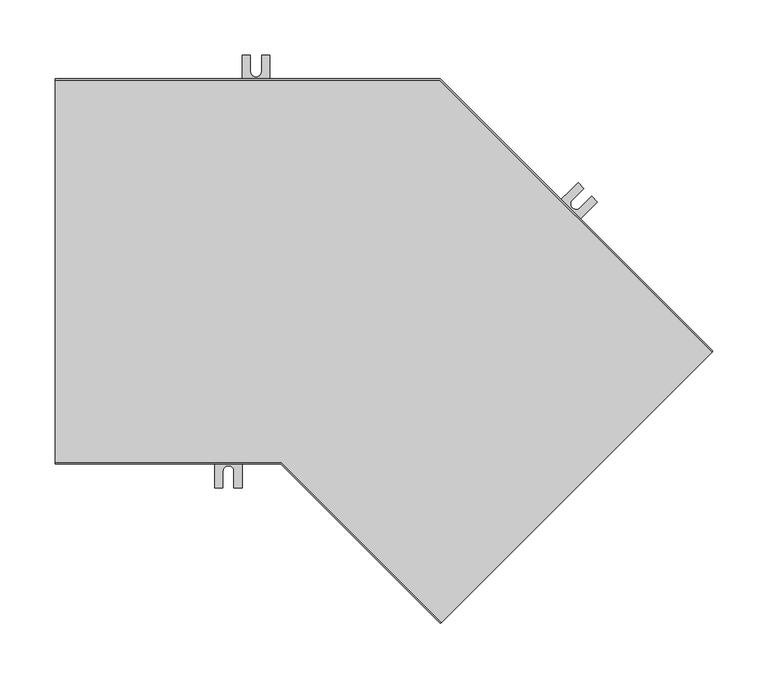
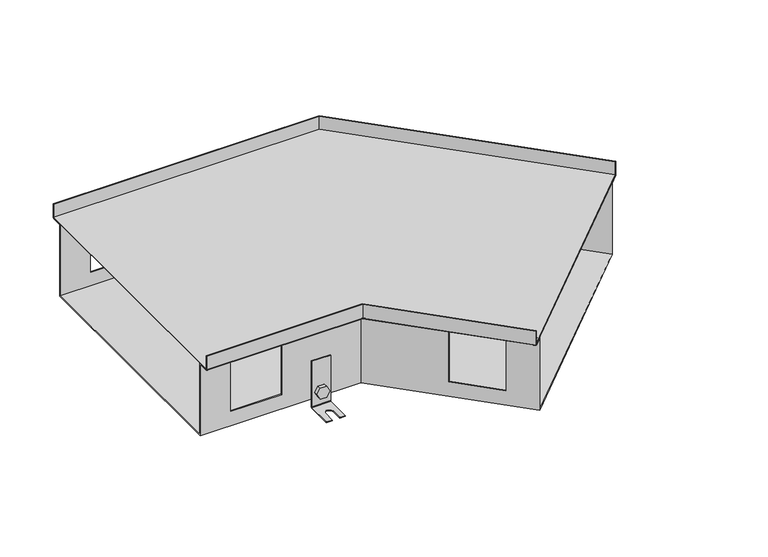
"""IFC4 building model written with IfcOpenShell, lengths in millimetres: proxy geometry, TECHNO_Угловой элемент_KVU : 350_120_135°."""

import ifcopenshell
import ifcopenshell.guid

model = None  # the IFC model being written
_history = None  # IfcOwnerHistory: only IFC2X3 demands one
_inside = {}  # id of a spatial element -> (the spatial element, [elements in it])
_under = {}  # id of a project, library or spatial element -> (it, [spatial elements below it])
_declared = {}  # id of a project -> (the project, [libraries it declares])
_typed = {}  # id of a type object -> (the type object, [elements of that type])
_made_of = {}  # id of a material, layer set ... -> (it, [elements and type objects made of it])


def new_model(schema):
    """Start an empty IFC model of exactly this schema.

    Asked for "IFC4X3", IfcOpenShell would pick the latest addendum, in which some entities
    have other attributes; the version numbers below select the first issue.
    IFC2X3 requires an IfcOwnerHistory on every rooted entity: one is made here for all.
    """
    global model, _history
    if schema == "IFC4X3":
        model = ifcopenshell.file(schema_version=(4, 3, 0, 0))
    else:
        model = ifcopenshell.file(schema=schema)
    _inside.clear()
    _under.clear()
    _declared.clear()
    _typed.clear()
    _made_of.clear()
    _history = None
    if model.schema == "IFC2X3":
        org = make("IfcOrganization", Name="unknown")
        user = make(
            "IfcPersonAndOrganization",
            ThePerson=make("IfcPerson", FamilyName="unknown"),
            TheOrganization=org,
        )
        app = make(
            "IfcApplication",
            ApplicationDeveloper=org,
            Version="unknown",
            ApplicationFullName="unknown",
            ApplicationIdentifier="unknown",
        )
        _history = make(
            "IfcOwnerHistory",
            OwningUser=user,
            OwningApplication=app,
            ChangeAction="ADDED",
            CreationDate=0,
        )
    return model


def make(cls, **values):
    """One entity of the class cls with the attributes given. An attribute that is None is left unset."""
    return model.create_entity(
        cls, **{name: value for name, value in values.items() if value is not None}
    )


def rooted(cls, **values):
    """An entity with a GlobalId (a new one), such as an element, a storey or a relation."""
    return make(cls, GlobalId=ifcopenshell.guid.new(), OwnerHistory=_history, **values)


def si_unit(unit_type, name, prefix=None):
    """IfcSIUnit, for example si_unit("LENGTHUNIT", "METRE", prefix="MILLI")."""
    return make("IfcSIUnit", UnitType=unit_type, Prefix=prefix, Name=name)


def assignment(units):
    """IfcUnitAssignment: the units of a project."""
    return None if units is None else make("IfcUnitAssignment", Units=units)


def point(xyz):
    """IfcCartesianPoint."""
    return None if xyz is None else make("IfcCartesianPoint", Coordinates=xyz)


def direction(xyz):
    """IfcDirection."""
    return None if xyz is None else make("IfcDirection", DirectionRatios=xyz)


def frame(location, z_axis=None, x_axis=None):
    """IfcAxis2Placement3D, a coordinate frame: its origin and axes. An axis left out is left unset."""
    return make(
        "IfcAxis2Placement3D",
        Location=point(location),
        Axis=direction(z_axis),
        RefDirection=direction(x_axis),
    )


def frame_2d(location, x_axis=None):
    """IfcAxis2Placement2D, a coordinate frame in the plane: its origin and x axis."""
    return make(
        "IfcAxis2Placement2D", Location=point(location), RefDirection=direction(x_axis)
    )


def origin():
    """The frame at (0, 0, 0) with its axes left unset."""
    return frame((0.0, 0.0, 0.0))


def place(relative_to, where):
    """IfcLocalPlacement: puts the frame where relative to a parent placement (None: the world)."""
    return make(
        "IfcLocalPlacement", PlacementRelTo=relative_to, RelativePlacement=where
    )


def context(
    kind, dimensions, precision=None, world=None, true_north=None, identifier=None
):
    """IfcGeometricRepresentationContext, for example the 3D "Model" context."""
    return make(
        "IfcGeometricRepresentationContext",
        ContextIdentifier=identifier,
        ContextType=kind,
        CoordinateSpaceDimension=dimensions,
        Precision=precision,
        WorldCoordinateSystem=world,
        TrueNorth=true_north,
    )


def project(units=None, contexts=None):
    """IfcProject with its units and contexts."""
    return rooted(
        "IfcProject",
        Name="project",
        RepresentationContexts=contexts,
        UnitsInContext=assignment(units),
    )


def spatial(cls, under=None, at=None, **own):
    """A site, building, storey or space (cls), placed at a placement, below another one or the project."""
    s = rooted(cls, ObjectPlacement=at, **own)
    if under is not None:
        _under.setdefault(under.id(), (under, []))[1].append(s)
    return s


def polyline(points):
    """IfcPolyline through the points."""
    return make("IfcPolyline", Points=[point(p) for p in points])


def circle_curve(where, radius):
    """IfcCircle in the frame where."""
    return make("IfcCircle", Position=where, Radius=radius)


def ellipse_curve(where, semi_axis1, semi_axis2):
    """IfcEllipse in the frame where."""
    return make(
        "IfcEllipse", Position=where, SemiAxis1=semi_axis1, SemiAxis2=semi_axis2
    )


def trimmed(basis, trim1, trim2, sense, master):
    """IfcTrimmedCurve: the piece of a basis curve between two trims."""
    return make(
        "IfcTrimmedCurve",
        BasisCurve=basis,
        Trim1=trim1,
        Trim2=trim2,
        SenseAgreement=sense,
        MasterRepresentation=master,
    )


def segment(curve, same_sense, transition):
    """IfcCompositeCurveSegment."""
    return make(
        "IfcCompositeCurveSegment",
        Transition=transition,
        SameSense=same_sense,
        ParentCurve=curve,
    )


def composite_curve(segments, self_intersect=None):
    """IfcCompositeCurve: segments joined end to end."""
    return make("IfcCompositeCurve", Segments=segments, SelfIntersect=self_intersect)


def outline(outer, holes=None, kind="AREA"):
    """IfcArbitraryClosedProfileDef: a profile drawn as a closed curve; with holes, ...WithVoids."""
    if holes is None:
        return make("IfcArbitraryClosedProfileDef", ProfileType=kind, OuterCurve=outer)
    return make(
        "IfcArbitraryProfileDefWithVoids",
        ProfileType=kind,
        OuterCurve=outer,
        InnerCurves=holes,
    )


def extrude(swept, where, along, depth):
    """IfcExtrudedAreaSolid: the profile swept, set in the frame where, extruded along a direction by depth."""
    return make(
        "IfcExtrudedAreaSolid",
        SweptArea=swept,
        Position=where,
        ExtrudedDirection=direction(along),
        Depth=depth,
    )


def shape(context_of_items, identifier, shape_type, items):
    """IfcShapeRepresentation: the items that make up one representation, for example the "Body"."""
    return make(
        "IfcShapeRepresentation",
        ContextOfItems=context_of_items,
        RepresentationIdentifier=identifier,
        RepresentationType=shape_type,
        Items=items,
    )


def source(mapping_origin, context_of_items, identifier, shape_type, items):
    """IfcRepresentationMap: a shape defined once, which mapped items show again and again."""
    return make(
        "IfcRepresentationMap",
        MappingOrigin=mapping_origin,
        MappedRepresentation=shape(context_of_items, identifier, shape_type, items),
    )


def transform(
    local_origin,
    x_axis=None,
    y_axis=None,
    z_axis=None,
    scale=None,
    scale2=None,
    scale3=None,
    uniform=True,
):
    """IfcCartesianTransformationOperator3D, or its non-uniform kind. x_axis, y_axis, z_axis: its Axis1, 2, 3."""
    if uniform:
        return make(
            "IfcCartesianTransformationOperator3D",
            Axis1=direction(x_axis),
            Axis2=direction(y_axis),
            LocalOrigin=point(local_origin),
            Scale=scale,
            Axis3=direction(z_axis),
        )
    return make(
        "IfcCartesianTransformationOperator3DnonUniform",
        Axis1=direction(x_axis),
        Axis2=direction(y_axis),
        LocalOrigin=point(local_origin),
        Scale=scale,
        Axis3=direction(z_axis),
        Scale2=scale2,
        Scale3=scale3,
    )


def mapped(mapping_source, mapping_target):
    """IfcMappedItem: shows the shape of a source again, moved by a transform."""
    return make(
        "IfcMappedItem", MappingSource=mapping_source, MappingTarget=mapping_target
    )


def made_of(thing, what):
    """Note that an element or type object is made of a material, layer set ...; save() writes the relation."""
    if what is not None:
        _made_of.setdefault(what.id(), (what, []))[1].append(thing)
    return thing


def element(
    cls,
    number,
    at=None,
    inside=None,
    cuts=None,
    type_object=None,
    material=None,
    context=None,
    identifier="Body",
    shape_type=None,
    held_by="IfcProductDefinitionShape",
    body=None,
    shapes=None,
    **own,
):
    """One element of the class cls, such as IfcWall. Its Tag is "e" and its number.

    at: its placement. inside: the storey or other place that contains it. cuts: it is an
    opening in that element (IfcRelVoidsElement). A single representation is given by context,
    identifier, shape_type and body (its items); several are given by shapes. held_by: the class
    of the entity that holds the representations. save() writes the other relations.
    """
    e = rooted(cls, Tag="e%d" % number, ObjectPlacement=at, **own)
    if body is not None:
        shapes = [shape(context, identifier, shape_type, body)]
    if shapes is not None:
        e.Representation = make(held_by, Representations=shapes)
    if inside is not None:
        _inside.setdefault(inside.id(), (inside, []))[1].append(e)
    if cuts is not None:
        rooted(
            "IfcRelVoidsElement", RelatingBuildingElement=cuts, RelatedOpeningElement=e
        )
    if type_object is not None:
        _typed.setdefault(type_object.id(), (type_object, []))[1].append(e)
    return made_of(e, material)


def aggregate(whole, parts):
    """IfcRelAggregates: a whole, such as a stair, and the parts it consists of."""
    return rooted("IfcRelAggregates", RelatingObject=whole, RelatedObjects=parts)


def save(model, path):
    """Write the relations noted so far, then the file.

    IfcRelAggregates (storeys below a building ...), IfcRelContainedInSpatialStructure (elements
    in a storey), IfcRelDefinesByType, IfcRelAssociatesMaterial and IfcRelDeclares: one each for
    every whole, place, type object, material and project.
    """
    for whole, parts in _under.values():
        aggregate(whole, parts)
    for where, things in _inside.values():
        rooted(
            "IfcRelContainedInSpatialStructure",
            RelatedElements=things,
            RelatingStructure=where,
        )
    for kind, things in _typed.values():
        rooted("IfcRelDefinesByType", RelatedObjects=things, RelatingType=kind)
    for what, things in _made_of.values():
        rooted("IfcRelAssociatesMaterial", RelatedObjects=things, RelatingMaterial=what)
    for by, libraries in _declared.values():
        rooted("IfcRelDeclares", RelatingContext=by, RelatedDefinitions=libraries)
    model.write(path)


def plane_surface(at):
    """IfcPlane: the flat surface through the origin of the frame at, square to its z axis."""
    return make("IfcPlane", Position=at)


def cylinder_surface(at, radius):
    """IfcCylindricalSurface: all points at the distance radius from the z axis of the frame at."""
    return make("IfcCylindricalSurface", Position=at, Radius=radius)


def revolved_surface(curve, axis_point, axis_direction):
    """IfcSurfaceOfRevolution: the curve turned about the line through axis_point along axis_direction."""
    return make(
        "IfcSurfaceOfRevolution",
        SweptCurve=make("IfcArbitraryOpenProfileDef", ProfileType="CURVE", Curve=curve),
        AxisPosition=make("IfcAxis1Placement", Location=point(axis_point), Axis=direction(axis_direction)),
    )


def advanced_brep(points, edges, surfaces, faces):
    """IfcAdvancedBrep: a solid bounded by faces that lie on surfaces and meet in shared edges.

    An edge is (start, end): straight between two places in points (the first is 0);
    or (start, end, curve); or (start, end, curve, False) where it runs against its curve.
    A face is (place in surfaces, loops), or (place, loops, False) where it looks against
    its surface's normal. A loop lists edges by number (the first is 1), with a minus sign
    where the edge is run from its end to its start. The first loop is the outer one.
    """
    corners = [point(p) for p in points]
    vertices = [make("IfcVertexPoint", VertexGeometry=c) for c in corners]
    made = []
    for start, end, *more in edges:
        made.append(
            make(
                "IfcEdgeCurve",
                EdgeStart=vertices[start],
                EdgeEnd=vertices[end],
                EdgeGeometry=more[0] if more else make("IfcPolyline", Points=[corners[start], corners[end]]),
                SameSense=more[1] if len(more) > 1 else True,
            )
        )
    hull = []
    for where, loops, *sense in faces:
        bounds = []
        for j, loop in enumerate(loops):
            ring = [make("IfcOrientedEdge", EdgeElement=made[abs(k) - 1], Orientation=k > 0) for k in loop]
            bounds.append(
                make(
                    "IfcFaceOuterBound" if j == 0 else "IfcFaceBound",
                    Bound=make("IfcEdgeLoop", EdgeList=ring),
                    Orientation=True,
                )
            )
        hull.append(make("IfcAdvancedFace", Bounds=bounds, FaceSurface=surfaces[where], SameSense=sense[0] if sense else True))
    return make("IfcAdvancedBrep", Outer=make("IfcClosedShell", CfsFaces=hull))


def mechanical_equipment_264bb3c7(model_context):
    return source(origin(), model_context, "Body", "SolidModel", [
        extrude(outline(composite_curve([segment(trimmed(circle_curve(frame_2d((0.0, -7.5000001)), 7.5), [point((0.0, -15.0))], [point((0.0, 0.0))], False, "CARTESIAN"), True, "CONTINUOUS"), segment(trimmed(circle_curve(frame_2d((0.0, -7.5000001)), 7.5), [point((0.0, 0.0))], [point((0.0, -15.0))], False, "CARTESIAN"), True, "CONTINUOUS")], self_intersect=False)), frame((422.4077344, -35.4349781, -110.5), z_axis=(0.7071067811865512, 0.7071067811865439, 0.0), x_axis=(0.0, 0.0, 1.0)), (0.0, 0.0, 1.0), 1.5),
        extrude(outline(polyline([(0.0, 0.0), (8.660254, 0.0), (12.990381, -7.5), (8.660254, -15.0), (0.0, -15.0), (-4.330127, -7.5), (0.0, 0.0)])), frame((406.5259365, -28.4627256, -110.5), z_axis=(0.7071067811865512, 0.7071067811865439, 0.0), x_axis=(0.3535533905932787, -0.3535533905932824, -0.8660254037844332)), (0.0, 0.0, 1.0), 5.1),
        advanced_brep(
        [(425.0947402, -39.8190401, -65.5), (425.0947402, -39.8190401, -128.5), (424.5290547, -40.3847255, -129.3), (401.194531, -63.7192493, -129.3), (401.194531, -63.7192493, -130.5), (424.5290547, -40.3847255, -130.5), (425.9432683, -38.970512, -128.5), (425.9432683, -38.970512, -65.5), (407.4170706, -22.1413706, -65.5), (408.2655988, -21.2928425, -65.5), (408.2655988, -21.2928425, -128.5), (406.8513852, -22.707056, -130.5), (383.5168614, -46.0415798, -130.5), (383.5168614, -46.0415798, -129.3), (406.8513852, -22.707056, -129.3), (407.4170706, -22.1413706, -128.5), (388.8201623, -51.3448807, -129.3), (399.426764, -40.7382789, -129.3), (406.4978318, -47.8093468, -129.3), (395.8912301, -58.4159485, -129.3), (395.8912301, -58.4159485, -130.5), (388.8201623, -51.3448807, -130.5), (406.4978318, -47.8093468, -130.5), (399.426764, -40.7382789, -130.5)],
        [
            (0, 1),
            (1, 2, circle_curve(frame((424.5290547, -40.3847255, -128.5), z_axis=(-0.7071067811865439, 0.7071067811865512, 0.0), x_axis=(-0.7071067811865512, -0.7071067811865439, 0.0)), 0.8)),
            (2, 3),
            (3, 4),
            (4, 5),
            (5, 6, circle_curve(frame((424.5290547, -40.3847255, -128.5), z_axis=(0.7071067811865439, -0.7071067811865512, 0.0), x_axis=(-0.7071067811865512, -0.7071067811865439, 0.0)), 2.0)),
            (6, 7),
            (7, 0),
            (8, 9),
            (9, 10),
            (10, 11, circle_curve(frame((406.8513852, -22.707056, -128.5), z_axis=(-0.7071067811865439, 0.7071067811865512, 0.0), x_axis=(-0.7071067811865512, -0.7071067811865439, 0.0)), 2.0)),
            (11, 12),
            (12, 13),
            (13, 14),
            (14, 15, circle_curve(frame((406.8513852, -22.707056, -128.5), z_axis=(0.7071067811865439, -0.7071067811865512, 0.0), x_axis=(-0.7071067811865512, -0.7071067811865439, 0.0)), 0.8)),
            (15, 8),
            (0, 8),
            (15, 1),
            (14, 2),
            (13, 16),
            (16, 17),
            (17, 18, circle_curve(frame((402.9622979, -44.2738128, -129.3), z_axis=(0.0, 0.0, -1.0), x_axis=(0.7071067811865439, -0.7071067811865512, 0.0)), 5.0)),
            (18, 19),
            (19, 3),
            (19, 20),
            (20, 4),
            (12, 21),
            (21, 16),
            (20, 22),
            (22, 23, circle_curve(frame((402.9622979, -44.2738128, -130.5), z_axis=(0.0, 0.0, 1.0), x_axis=(0.7071067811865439, -0.7071067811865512, 0.0)), 5.0)),
            (23, 21),
            (11, 5),
            (10, 6),
            (9, 7),
            (23, 17),
            (18, 22),
        ],
        [
            plane_surface(frame((425.0947402, -39.8190401, -65.5), z_axis=(0.7071067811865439, -0.7071067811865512, 0.0), x_axis=(0.0, 0.0, -1.0))),
            plane_surface(frame((407.4170706, -22.1413706, -65.5), z_axis=(-0.7071067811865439, 0.7071067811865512, 0.0), x_axis=(0.0, 0.0, 1.0))),
            plane_surface(frame((425.0947402, -39.8190401, -65.5), z_axis=(-0.7071067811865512, -0.7071067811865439, 0.0), x_axis=(-0.7071067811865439, 0.7071067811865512, 0.0))),
            revolved_surface(polyline([(406.2856997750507, -23.27274142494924, -128.5), (423.9633693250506, -40.950410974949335, -128.5)]), (406.8513852, -22.707056, -128.5), (-0.7071067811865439, 0.7071067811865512, 0.0)),
            plane_surface(frame((424.5290547, -40.3847255, -129.3), z_axis=(0.0, 0.0, 1.0), x_axis=(-0.7071067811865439, 0.7071067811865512, 0.0))),
            plane_surface(frame((401.194531, -63.7192493, -129.3), z_axis=(-0.7071067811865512, -0.7071067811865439, 0.0), x_axis=(-0.7071067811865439, 0.7071067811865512, 0.0))),
            plane_surface(frame((401.194531, -63.7192493, -130.5), z_axis=(0.0, 0.0, -1.0), x_axis=(-0.7071067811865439, 0.7071067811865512, 0.0))),
            cylinder_surface(frame((406.8513852, -22.707056, -128.5), z_axis=(0.7071067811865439, -0.7071067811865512, 0.0), x_axis=(-0.7071067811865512, -0.7071067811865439, 0.0)), 2.0),
            plane_surface(frame((425.9432683, -38.970512, -128.5), z_axis=(0.7071067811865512, 0.7071067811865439, 0.0), x_axis=(-0.7071067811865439, 0.7071067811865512, 0.0))),
            plane_surface(frame((425.9432683, -38.970512, -65.5), z_axis=(0.0, 0.0, 1.0), x_axis=(-0.7071067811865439, 0.7071067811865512, 0.0))),
            plane_surface(frame((399.426764, -40.7382789, -129.3), z_axis=(0.7071067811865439, -0.7071067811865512, 0.0), x_axis=(0.0, 0.0, -1.0))),
            plane_surface(frame((395.8912301, -58.4159485, -129.3), z_axis=(-0.707106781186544, 0.7071067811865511, 0.0), x_axis=(0.0, 0.0, -1.0))),
            revolved_surface(polyline([(406.4978318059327, -47.80934670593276, -129.3), (406.4978318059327, -47.80934670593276, -130.5)]), (402.9622979, -44.2738128, -130.5), (0.0, 0.0, 1.0)),
        ],
        [
            (0, [[1, 2, 3, 4, 5, 6, 7, 8]]),
            (1, [[9, 10, 11, 12, 13, 14, 15, 16]]),
            (2, [[-1, 17, -16, 18]]),
            (3, [[-2, -18, -15, 19]]),
            (4, [[-3, -19, -14, 20, 21, 22, 23, 24]]),
            (5, [[-4, -24, 25, 26]]),
            (5, [[-13, 27, 28, -20]]),
            (6, [[-5, -26, 29, 30, 31, -27, -12, 32]]),
            (7, [[-6, -32, -11, 33]]),
            (8, [[-7, -33, -10, 34]]),
            (9, [[-8, -34, -9, -17]]),
            (10, [[35, -21, -28, -31]]),
            (11, [[36, -29, -25, -23]]),
            (12, [[-35, -30, -36, -22]]),
        ],
    ),
        extrude(outline(composite_curve([segment(trimmed(circle_curve(frame_2d((0.0, -7.5)), 7.5), [point((0.0, -15.0))], [point((0.0, 0.0))], False, "CARTESIAN"), True, "CONTINUOUS"), segment(trimmed(circle_curve(frame_2d((0.0, -7.5)), 7.5), [point((0.0, 0.0))], [point((0.0, -15.0))], False, "CARTESIAN"), True, "CONTINUOUS")], self_intersect=False)), frame((452.6719046, 51.3977346, -110.5), z_axis=(0.7071067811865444, 0.7071067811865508, 0.0), x_axis=(0.0, 0.0, -1.0)), (0.0, 0.0, 1.0), 1.5),
        extrude(outline(polyline([(0.0, 0.0), (4.330127, -7.5), (0.0, -15.0000001), (-8.6602541, -15.0000001), (-12.9903811, -7.5000001), (-8.6602541, 0.0), (0.0, 0.0)])), frame((466.0081182, 41.8798977, -110.5), z_axis=(0.7071067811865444, 0.7071067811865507, 0.0), x_axis=(0.35355339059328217, -0.35355339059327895, 0.8660254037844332)), (0.0, 0.0, 1.0), 5.1),
        advanced_brep(
        [(451.045559, 56.8424569, -65.5), (451.045559, 56.8424569, -128.5), (451.6112445, 57.4081423, -129.3), (474.9457682, 80.7426661, -129.3), (474.9457682, 80.7426661, -130.5), (451.6112445, 57.4081423, -130.5), (450.1970309, 55.9939287, -128.5), (450.1970309, 55.9939287, -65.5), (468.7232286, 39.1647873, -65.5), (467.8747004, 38.3162592, -65.5), (467.8747004, 38.3162592, -128.5), (469.288914, 39.7304728, -130.5), (492.6234378, 63.0649965, -130.5), (492.6234378, 63.0649965, -129.3), (469.288914, 39.7304728, -129.3), (468.7232286, 39.1647873, -128.5), (487.3201369, 68.3682974, -129.3), (476.7135352, 57.7616957, -129.3), (469.6424674, 64.8327635, -129.3), (480.2490691, 75.4393652, -129.3), (480.2490691, 75.4393652, -130.5), (487.3201369, 68.3682974, -130.5), (469.6424674, 64.8327635, -130.5), (476.7135352, 57.7616957, -130.5)],
        [
            (0, 1),
            (1, 2, circle_curve(frame((451.6112445, 57.4081423, -128.5), z_axis=(0.7071067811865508, -0.7071067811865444, 0.0), x_axis=(0.7071067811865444, 0.7071067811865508, 0.0)), 0.8)),
            (2, 3),
            (3, 4),
            (4, 5),
            (5, 6, circle_curve(frame((451.6112445, 57.4081423, -128.5), z_axis=(-0.7071067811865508, 0.7071067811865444, 0.0), x_axis=(0.7071067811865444, 0.7071067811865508, 0.0)), 2.0)),
            (6, 7),
            (7, 0),
            (8, 9),
            (9, 10),
            (10, 11, circle_curve(frame((469.288914, 39.7304728, -128.5), z_axis=(0.7071067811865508, -0.7071067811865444, 0.0), x_axis=(0.7071067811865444, 0.7071067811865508, 0.0)), 2.0)),
            (11, 12),
            (12, 13),
            (13, 14),
            (14, 15, circle_curve(frame((469.288914, 39.7304728, -128.5), z_axis=(-0.7071067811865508, 0.7071067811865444, 0.0), x_axis=(0.7071067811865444, 0.7071067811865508, 0.0)), 0.8)),
            (15, 8),
            (0, 8),
            (15, 1),
            (14, 2),
            (13, 16),
            (16, 17),
            (17, 18, circle_curve(frame((473.1780013, 61.2972296, -129.3), z_axis=(0.0, 0.0, -1.0), x_axis=(-0.7071067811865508, 0.7071067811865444, 0.0)), 5.0)),
            (18, 19),
            (19, 3),
            (19, 20),
            (20, 4),
            (12, 21),
            (21, 16),
            (20, 22),
            (22, 23, circle_curve(frame((473.1780013, 61.2972296, -130.5), z_axis=(0.0, 0.0, 1.0), x_axis=(-0.7071067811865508, 0.7071067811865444, 0.0)), 5.0)),
            (23, 21),
            (11, 5),
            (10, 6),
            (9, 7),
            (23, 17),
            (18, 22),
        ],
        [
            plane_surface(frame((451.045559, 56.8424569, -65.5), z_axis=(-0.7071067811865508, 0.7071067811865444, 0.0), x_axis=(0.0, 0.0, -1.0))),
            plane_surface(frame((468.7232286, 39.1647873, -65.5), z_axis=(0.7071067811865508, -0.7071067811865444, 0.0), x_axis=(0.0, 0.0, 1.0))),
            plane_surface(frame((451.045559, 56.8424569, -65.5), z_axis=(0.7071067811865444, 0.7071067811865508, 0.0), x_axis=(0.7071067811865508, -0.7071067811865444, 0.0))),
            revolved_surface(polyline([(469.8545994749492, 40.29615817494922, -128.5), (452.1769298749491, 57.97382777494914, -128.5)]), (469.288914, 39.7304728, -128.5), (0.7071067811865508, -0.7071067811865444, 0.0)),
            plane_surface(frame((451.6112445, 57.4081423, -129.3), z_axis=(0.0, 0.0, 1.0000000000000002), x_axis=(0.7071067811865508, -0.7071067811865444, 0.0))),
            plane_surface(frame((474.9457682, 80.7426661, -129.3), z_axis=(0.7071067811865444, 0.7071067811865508, 0.0), x_axis=(0.7071067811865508, -0.7071067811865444, 0.0))),
            plane_surface(frame((474.9457682, 80.7426661, -130.5), z_axis=(0.0, 0.0, -1.0000000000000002), x_axis=(0.7071067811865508, -0.7071067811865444, 0.0))),
            cylinder_surface(frame((469.288914, 39.7304728, -128.5), z_axis=(-0.7071067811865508, 0.7071067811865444, 0.0), x_axis=(0.7071067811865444, 0.7071067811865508, 0.0)), 2.0),
            plane_surface(frame((450.1970309, 55.9939287, -128.5), z_axis=(-0.7071067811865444, -0.7071067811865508, 0.0), x_axis=(0.7071067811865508, -0.7071067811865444, 0.0))),
            plane_surface(frame((450.1970309, 55.9939287, -65.5), z_axis=(0.0, 0.0, 1.0000000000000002), x_axis=(0.7071067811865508, -0.7071067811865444, 0.0))),
            plane_surface(frame((476.7135352, 57.7616957, -129.3), z_axis=(-0.7071067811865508, 0.7071067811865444, 0.0), x_axis=(0.0, 0.0, -1.0))),
            plane_surface(frame((480.2490691, 75.4393652, -129.3), z_axis=(0.7071067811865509, -0.7071067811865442, 0.0), x_axis=(0.0, 0.0, -1.0))),
            revolved_surface(polyline([(469.64246739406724, 64.83276350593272, -129.3), (469.64246739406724, 64.83276350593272, -130.5)]), (473.1780013, 61.2972296, -130.5), (0.0, 0.0, 1.0)),
        ],
        [
            (0, [[1, 2, 3, 4, 5, 6, 7, 8]]),
            (1, [[9, 10, 11, 12, 13, 14, 15, 16]]),
            (2, [[-1, 17, -16, 18]]),
            (3, [[-2, -18, -15, 19]]),
            (4, [[-3, -19, -14, 20, 21, 22, 23, 24]]),
            (5, [[-4, -24, 25, 26]]),
            (5, [[-13, 27, 28, -20]]),
            (6, [[-5, -26, 29, 30, 31, -27, -12, 32]]),
            (7, [[-6, -32, -11, 33]]),
            (8, [[-7, -33, -10, 34]]),
            (9, [[-8, -34, -9, -17]]),
            (10, [[35, -21, -28, -31]]),
            (11, [[36, -29, -25, -23]]),
            (12, [[-35, -30, -36, -22]]),
        ],
    ),
        extrude(outline(composite_curve([segment(trimmed(circle_curve(frame_2d((-110.5, 182.5)), 7.5), [point((-110.5, 175.0))], [point((-110.5, 190.0))], False, "CARTESIAN"), True, "CONTINUOUS"), segment(trimmed(circle_curve(frame_2d((-110.5, 182.5)), 7.5), [point((-110.5, 190.0))], [point((-110.5, 175.0))], False, "CARTESIAN"), True, "CONTINUOUS")], self_intersect=False)), frame((0.0, 160.2, 0.0), z_axis=(0.0, 1.0, 0.0), x_axis=(0.0, 0.0, 1.0)), (0.0, 0.0, 1.0), 1.5),
        extrude(outline(polyline([(-110.5, 173.839746), (-118.0, 178.169873), (-118.0, 186.830127), (-110.5, 191.160254), (-103.0, 186.830127), (-103.0, 178.169873), (-110.5, 173.839746)])), frame((0.0, 162.9, 0.0), z_axis=(0.0, 1.0, 0.0), x_axis=(0.0, 0.0, 1.0)), (0.0, 0.0, 1.0), 5.1),
        advanced_brep(
        [(195.0, 162.9, -65.5), (195.0, 161.7, -65.5), (195.0, 161.7, -128.5), (195.0, 163.7, -130.5), (195.0, 196.7, -130.5), (195.0, 196.7, -129.3), (195.0, 163.7, -129.3), (195.0, 162.9, -128.5), (170.0, 162.9, -65.5), (170.0, 162.9, -128.5), (170.0, 163.7, -129.3), (170.0, 196.7, -129.3), (170.0, 196.7, -130.5), (170.0, 163.7, -130.5), (170.0, 161.7, -128.5), (170.0, 161.7, -65.5), (187.5, 196.7, -129.3), (187.5, 181.7, -129.3), (177.5, 181.7, -129.3), (177.5, 196.7, -129.3), (177.5, 196.7, -130.5), (187.5, 196.7, -130.5), (177.5, 181.7, -130.5), (187.5, 181.7, -130.5)],
        [
            (0, 1),
            (1, 2),
            (2, 3, circle_curve(frame((195.0, 163.7, -128.5), z_axis=(1.0, 0.0, 0.0), x_axis=(0.0, 1.0, 0.0)), 2.0)),
            (3, 4),
            (4, 5),
            (5, 6),
            (6, 7, circle_curve(frame((195.0, 163.7, -128.5), z_axis=(-1.0, 0.0, 0.0), x_axis=(0.0, 1.0, 0.0)), 0.8)),
            (7, 0),
            (8, 9),
            (9, 10, circle_curve(frame((170.0, 163.7, -128.5), z_axis=(1.0, 0.0, 0.0), x_axis=(0.0, 1.0, 0.0)), 0.8)),
            (10, 11),
            (11, 12),
            (12, 13),
            (13, 14, circle_curve(frame((170.0, 163.7, -128.5), z_axis=(-1.0, 0.0, 0.0), x_axis=(0.0, 1.0, 0.0)), 2.0)),
            (14, 15),
            (15, 8),
            (7, 9),
            (8, 0),
            (6, 10),
            (5, 16),
            (16, 17),
            (17, 18, circle_curve(frame((182.5, 181.7, -129.3), z_axis=(0.0, 0.0, -1.0), x_axis=(1.0, 0.0, 0.0)), 5.0)),
            (18, 19),
            (19, 11),
            (19, 20),
            (20, 12),
            (4, 21),
            (21, 16),
            (3, 13),
            (20, 22),
            (22, 23, circle_curve(frame((182.5, 181.7, -130.5), z_axis=(0.0, 0.0, 1.0), x_axis=(1.0, 0.0, 0.0)), 5.0)),
            (23, 21),
            (2, 14),
            (1, 15),
            (18, 22),
            (23, 17),
        ],
        [
            plane_surface(frame((195.0, 162.9, -65.5), z_axis=(1.0, 0.0, 0.0), x_axis=(0.0, 0.0, -1.0))),
            plane_surface(frame((170.0, 162.9, -65.5), z_axis=(-1.0, 0.0, 0.0), x_axis=(0.0, 0.0, 1.0))),
            plane_surface(frame((195.0, 162.9, -65.5), z_axis=(0.0, 1.0, 0.0), x_axis=(-1.0, 0.0, 0.0))),
            revolved_surface(polyline([(170.0, 164.5, -128.5), (195.0, 164.5, -128.5)]), (170.0, 163.7, -128.5), (-1.0, 0.0, 0.0)),
            plane_surface(frame((195.0, 163.7, -129.3), z_axis=(0.0, 0.0, 1.0), x_axis=(-1.0, 0.0, 0.0))),
            plane_surface(frame((195.0, 196.7, -129.3), z_axis=(0.0, 1.0, 0.0), x_axis=(-1.0, 0.0, 0.0))),
            plane_surface(frame((195.0, 196.7, -130.5), z_axis=(0.0, 0.0, -1.0), x_axis=(-1.0, 0.0, 0.0))),
            cylinder_surface(frame((170.0, 163.7, -128.5), z_axis=(1.0, 0.0, 0.0), x_axis=(0.0, 1.0, 0.0)), 2.0),
            plane_surface(frame((195.0, 161.7, -128.5), z_axis=(0.0, -1.0, 0.0), x_axis=(-1.0, 0.0, 0.0))),
            plane_surface(frame((195.0, 161.7, -65.5), z_axis=(0.0, 0.0, 1.0), x_axis=(-1.0, 0.0, 0.0))),
            plane_surface(frame((177.5, 181.7, -129.3), z_axis=(1.0, 0.0, 0.0), x_axis=(0.0, 0.0, -1.0))),
            plane_surface(frame((187.5, 196.7, -129.3), z_axis=(-1.0, 0.0, 0.0), x_axis=(0.0, 0.0, -1.0))),
            revolved_surface(polyline([(187.5, 181.7, -129.3), (187.5, 181.7, -130.5)]), (182.5, 181.7, -130.5), (0.0, 0.0, 1.0)),
        ],
        [
            (0, [[1, 2, 3, 4, 5, 6, 7, 8]]),
            (1, [[9, 10, 11, 12, 13, 14, 15, 16]]),
            (2, [[17, -9, 18, -8]]),
            (3, [[19, -10, -17, -7]]),
            (4, [[20, 21, 22, 23, 24, -11, -19, -6]]),
            (5, [[-24, 25, 26, -12]]),
            (5, [[27, 28, -20, -5]]),
            (6, [[29, -13, -26, 30, 31, 32, -27, -4]]),
            (7, [[33, -14, -29, -3]]),
            (8, [[34, -15, -33, -2]]),
            (9, [[-18, -16, -34, -1]]),
            (10, [[-30, -25, -23, 35]]),
            (11, [[-21, -28, -32, 36]]),
            (12, [[-22, -36, -31, -35]]),
        ],
    ),
        extrude(outline(composite_curve([segment(trimmed(circle_curve(frame_2d((-110.5, 157.5)), 7.5), [point((-110.5, 150.0))], [point((-110.5, 165.0))], False, "CARTESIAN"), True, "CONTINUOUS"), segment(trimmed(circle_curve(frame_2d((-110.5, 157.5)), 7.5), [point((-110.5, 165.0))], [point((-110.5, 150.0))], False, "CARTESIAN"), True, "CONTINUOUS")], self_intersect=False)), frame((0.0, -161.7, 0.0), z_axis=(0.0, 1.0, 0.0), x_axis=(0.0, 0.0, 1.0)), (0.0, 0.0, 1.0), 1.5),
        extrude(outline(polyline([(-110.5, 148.839746), (-118.0, 153.169873), (-118.0, 161.830127), (-110.5, 166.160254), (-103.0, 161.830127), (-103.0, 153.169873), (-110.5, 148.839746)])), frame((0.0, -168.0, 0.0), z_axis=(0.0, 1.0, 0.0), x_axis=(0.0, 0.0, 1.0)), (0.0, 0.0, 1.0), 5.1),
        advanced_brep(
        [(170.0, -162.9, -65.5), (170.0, -162.9, -128.5), (170.0, -163.7, -129.3), (170.0, -196.7, -129.3), (170.0, -196.7, -130.5), (170.0, -163.7, -130.5), (170.0, -161.7, -128.5), (170.0, -161.7, -65.5), (145.0, -162.9, -65.5), (145.0, -161.7, -65.5), (145.0, -161.7, -128.5), (145.0, -163.7, -130.5), (145.0, -196.7, -130.5), (145.0, -196.7, -129.3), (145.0, -163.7, -129.3), (145.0, -162.9, -128.5), (152.5, -196.7, -129.3), (152.5, -181.7, -129.3), (162.5, -181.7, -129.3), (162.5, -196.7, -129.3), (162.5, -196.7, -130.5), (152.5, -196.7, -130.5), (162.5, -181.7, -130.5), (152.5, -181.7, -130.5)],
        [
            (0, 1),
            (1, 2, circle_curve(frame((170.0, -163.7, -128.5), z_axis=(-1.0, 0.0, 0.0), x_axis=(0.0, -1.0, 0.0)), 0.8)),
            (2, 3),
            (3, 4),
            (4, 5),
            (5, 6, circle_curve(frame((170.0, -163.7, -128.5), z_axis=(1.0, 0.0, 0.0), x_axis=(0.0, -1.0, 0.0)), 2.0)),
            (6, 7),
            (7, 0),
            (8, 9),
            (9, 10),
            (10, 11, circle_curve(frame((145.0, -163.7, -128.5), z_axis=(-1.0, 0.0, 0.0), x_axis=(0.0, -1.0, 0.0)), 2.0)),
            (11, 12),
            (12, 13),
            (13, 14),
            (14, 15, circle_curve(frame((145.0, -163.7, -128.5), z_axis=(1.0, 0.0, 0.0), x_axis=(0.0, -1.0, 0.0)), 0.8)),
            (15, 8),
            (0, 8),
            (15, 1),
            (14, 2),
            (13, 16),
            (16, 17),
            (17, 18, circle_curve(frame((157.5, -181.7, -129.3), z_axis=(0.0, 0.0, -1.0), x_axis=(1.0, 0.0, 0.0)), 5.0)),
            (18, 19),
            (19, 3),
            (19, 20),
            (20, 4),
            (12, 21),
            (21, 16),
            (20, 22),
            (22, 23, circle_curve(frame((157.5, -181.7, -130.5), z_axis=(0.0, 0.0, 1.0), x_axis=(1.0, 0.0, 0.0)), 5.0)),
            (23, 21),
            (11, 5),
            (10, 6),
            (9, 7),
            (23, 17),
            (18, 22),
        ],
        [
            plane_surface(frame((170.0, -162.9, -65.5), z_axis=(1.0, 0.0, 0.0), x_axis=(0.0, 0.0, -1.0))),
            plane_surface(frame((145.0, -162.9, -65.5), z_axis=(-1.0, 0.0, 0.0), x_axis=(0.0, 0.0, 1.0))),
            plane_surface(frame((170.0, -162.9, -65.5), z_axis=(0.0, -1.0, 0.0), x_axis=(-1.0, 0.0, 0.0))),
            revolved_surface(polyline([(145.0, -164.5, -128.5), (170.0, -164.5, -128.5)]), (145.0, -163.7, -128.5), (-1.0, 0.0, 0.0)),
            plane_surface(frame((170.0, -163.7, -129.3), z_axis=(0.0, 0.0, 1.0), x_axis=(-1.0, 0.0, 0.0))),
            plane_surface(frame((170.0, -196.7, -129.3), z_axis=(0.0, -1.0, 0.0), x_axis=(-1.0, 0.0, 0.0))),
            plane_surface(frame((170.0, -196.7, -130.5), z_axis=(0.0, 0.0, -1.0), x_axis=(-1.0, 0.0, 0.0))),
            cylinder_surface(frame((145.0, -163.7, -128.5), z_axis=(1.0, 0.0, 0.0), x_axis=(0.0, -1.0, 0.0)), 2.0),
            plane_surface(frame((170.0, -161.7, -128.5), z_axis=(0.0, 1.0, 0.0), x_axis=(-1.0, 0.0, 0.0))),
            plane_surface(frame((170.0, -161.7, -65.5), z_axis=(0.0, 0.0, 1.0), x_axis=(-1.0, 0.0, 0.0))),
            plane_surface(frame((152.5, -181.7, -129.3), z_axis=(1.0, 0.0, 0.0), x_axis=(0.0, 0.0, -1.0))),
            plane_surface(frame((162.5, -196.7, -129.3), z_axis=(-1.0, 0.0, 0.0), x_axis=(0.0, 0.0, -1.0))),
            revolved_surface(polyline([(162.5, -181.7, -129.3), (162.5, -181.7, -130.5)]), (157.5, -181.7, -130.5), (0.0, 0.0, 1.0)),
        ],
        [
            (0, [[1, 2, 3, 4, 5, 6, 7, 8]]),
            (1, [[9, 10, 11, 12, 13, 14, 15, 16]]),
            (2, [[-1, 17, -16, 18]]),
            (3, [[-2, -18, -15, 19]]),
            (4, [[-3, -19, -14, 20, 21, 22, 23, 24]]),
            (5, [[-4, -24, 25, 26]]),
            (5, [[-13, 27, 28, -20]]),
            (6, [[-5, -26, 29, 30, 31, -27, -12, 32]]),
            (7, [[-6, -32, -11, 33]]),
            (8, [[-7, -33, -10, 34]]),
            (9, [[-8, -34, -9, -17]]),
            (10, [[35, -21, -28, -31]]),
            (11, [[36, -29, -25, -23]]),
            (12, [[-35, -30, -36, -22]]),
        ],
    ),
        extrude(outline(polyline([(596.6388453, -73.3359016), (350.8485281, -319.1262187), (205.5223094, -173.8), (0.0, -173.8), (0.0, 173.8), (349.5029437, 173.8), (596.6388453, -73.3359016)])), frame((0.0, 0.0, -19.3), z_axis=(0.0, 0.0, 1.0), x_axis=(1.0, 0.0, 0.0)), (0.0, 0.0, 1.0), 1.2),
        advanced_brep(
        [(350.0, -319.9747468, -19.3), (350.8485281, -319.1262187, -20.5), (360.4651804, -309.5095665, -20.5), (360.4651804, -309.5095665, -120.0), (587.0221931, -82.9525538, -120.0), (587.0221931, -82.9525538, -20.5), (596.6388453, -73.3359016, -20.5), (597.4873734, -72.4873734, -19.3), (597.4873734, -72.4873734, 0.0), (596.6388453, -73.3359016, 0.0), (596.6388453, -73.3359016, -19.3), (587.0221931, -82.9525538, -19.3), (586.1736649, -83.8010819, -20.5), (586.1736649, -83.8010819, -118.8), (361.3137085, -308.6610383, -118.8), (361.3137085, -308.6610383, -20.5), (360.4651804, -309.5095665, -19.3), (350.8485281, -319.1262187, -19.3), (350.8485281, -319.1262187, 0.0), (350.0, -319.9747468, 0.0), (0.0, -175.0, -19.3), (0.0, -175.0, 0.0), (0.0, -173.8, 0.0), (0.0, -173.8, -19.3), (0.0, -160.2, -19.3), (0.0, -159.0, -20.5), (0.0, -159.0, -118.8), (0.0, 159.0, -118.8), (0.0, 159.0, -20.5), (0.0, 160.2, -19.3), (0.0, 173.8, -19.3), (0.0, 173.8, 0.0), (0.0, 175.0, 0.0), (0.0, 175.0, -19.3), (0.0, 173.8, -20.5), (0.0, 160.2, -20.5), (0.0, 160.2, -120.0), (0.0, -160.2, -120.0), (0.0, -160.2, -20.5), (0.0, -173.8, -20.5), (205.5223094, -173.8, -20.5), (205.0252532, -175.0, -19.3), (205.5223094, -173.8, 0.0), (205.5223094, -173.8, -19.3), (211.1556139, -160.2, -120.0), (211.1556139, -160.2, -20.5), (40.0, -160.2, -30.0), (107.0, -160.2, -30.0), (107.0, -160.2, -100.0), (40.0, -160.2, -100.0), (211.6526702, -159.0, -20.5), (211.6526702, -159.0, -118.8), (107.0, -159.0, -30.0), (40.0, -159.0, -30.0), (40.0, -159.0, -100.0), (107.0, -159.0, -100.0), (211.1556139, -160.2, -19.3), (284.8047548, -233.8491409, -30.0), (332.1809091, -281.2252952, -30.0), (332.1809091, -281.2252952, -100.0), (284.8047548, -233.8491409, -100.0), (343.8696393, 160.2, -120.0), (343.372583, 159.0, -118.8), (333.0294373, -280.3767671, -30.0), (285.6532829, -233.0006127, -30.0), (285.6532829, -233.0006127, -100.0), (333.0294373, -280.3767671, -100.0), (205.0252532, -175.0, 0.0), (343.8696393, 160.2, -20.5), (558.7379218, -54.6682825, -30.0), (511.3617675, -7.2921282, -30.0), (511.3617675, -7.2921282, -100.0), (558.7379218, -54.6682825, -100.0), (349.5029437, 173.8, -20.5), (350.0, 175.0, -19.3), (350.0, 175.0, 0.0), (349.5029437, 173.8, 0.0), (349.5029437, 173.8, -19.3), (343.8696393, 160.2, -19.3), (343.372583, 159.0, -20.5), (510.5132393, -8.1406563, -30.0), (557.8893937, -55.5168107, -30.0), (557.8893937, -55.5168107, -100.0), (510.5132393, -8.1406563, -100.0), (107.0, 160.2, -30.0), (40.0, 160.2, -30.0), (40.0, 160.2, -100.0), (107.0, 160.2, -100.0), (40.0, 159.0, -30.0), (107.0, 159.0, -30.0), (107.0, 159.0, -100.0), (40.0, 159.0, -100.0)],
        [
            (0, 1, circle_curve(frame((350.8485281, -319.1262187, -19.3), z_axis=(0.707106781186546, -0.707106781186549, 0.0), x_axis=(-0.707106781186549, -0.707106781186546, 0.0)), 1.2)),
            (1, 2),
            (2, 3),
            (3, 4),
            (4, 5),
            (5, 6),
            (6, 7, circle_curve(frame((596.6388453, -73.3359016, -19.3), z_axis=(0.707106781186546, -0.707106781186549, 0.0), x_axis=(-0.707106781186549, -0.707106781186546, 0.0)), 1.2)),
            (7, 8),
            (8, 9),
            (9, 10),
            (10, 11),
            (11, 12, circle_curve(frame((587.0221931, -82.9525538, -20.5), z_axis=(0.707106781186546, -0.707106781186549, 0.0), x_axis=(-0.707106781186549, -0.707106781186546, 0.0)), 1.2)),
            (12, 13),
            (13, 14),
            (14, 15),
            (15, 16, circle_curve(frame((360.4651804, -309.5095665, -20.5), z_axis=(0.707106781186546, -0.707106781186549, 0.0), x_axis=(-0.707106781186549, -0.707106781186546, 0.0)), 1.2)),
            (16, 17),
            (17, 18),
            (18, 19),
            (19, 0),
            (20, 21),
            (21, 22),
            (22, 23),
            (23, 24),
            (24, 25, circle_curve(frame((0.0, -160.2, -20.5), z_axis=(-1.0, 0.0, 0.0), x_axis=(0.0, -1.0, 0.0)), 1.2)),
            (25, 26),
            (26, 27),
            (27, 28),
            (28, 29, circle_curve(frame((0.0, 160.2, -20.5), z_axis=(-1.0, 0.0, 0.0), x_axis=(0.0, -1.0, 0.0)), 1.2)),
            (29, 30),
            (30, 31),
            (31, 32),
            (32, 33),
            (33, 34, circle_curve(frame((0.0, 173.8, -19.3), z_axis=(-1.0, 0.0, 0.0), x_axis=(0.0, -1.0, 0.0)), 1.2)),
            (34, 35),
            (35, 36),
            (36, 37),
            (37, 38),
            (38, 39),
            (39, 20, circle_curve(frame((0.0, -173.8, -19.3), z_axis=(-1.0, 0.0, 0.0), x_axis=(0.0, -1.0, 0.0)), 1.2)),
            (39, 40),
            (40, 41, ellipse_curve(frame((205.5223094, -173.8, -19.3), z_axis=(-0.9238795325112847, 0.3826834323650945, 0.0), x_axis=(0.3826834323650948, 0.9238795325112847, 0.0)), 1.2988706, 1.2)),
            (41, 20),
            (22, 42),
            (42, 43),
            (43, 23),
            (37, 44),
            (44, 45),
            (45, 38),
            (46, 47),
            (47, 48),
            (48, 49),
            (49, 46),
            (25, 50),
            (50, 51),
            (51, 26),
            (52, 53),
            (53, 54),
            (54, 55),
            (55, 52),
            (24, 56),
            (56, 50, ellipse_curve(frame((211.1556139, -160.2, -20.5), z_axis=(-0.9238795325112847, 0.3826834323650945, 0.0), x_axis=(0.3826834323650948, 0.9238795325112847, 0.0)), 1.2988706, 1.2)),
            (0, 41),
            (40, 1),
            (45, 2),
            (44, 3),
            (57, 58),
            (58, 59),
            (59, 60),
            (60, 57),
            (36, 61),
            (61, 4),
            (13, 62),
            (62, 27),
            (51, 14),
            (50, 15),
            (63, 64),
            (64, 65),
            (65, 66),
            (66, 63),
            (56, 16),
            (43, 17),
            (42, 18),
            (21, 67),
            (67, 19),
            (61, 68),
            (68, 5),
            (69, 70),
            (70, 71),
            (71, 72),
            (72, 69),
            (68, 35),
            (34, 73),
            (73, 6),
            (73, 74, ellipse_curve(frame((349.5029437, 173.8, -19.3), z_axis=(0.9238795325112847, -0.3826834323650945, 0.0), x_axis=(-0.38268343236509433, -0.9238795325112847, 0.0)), 1.2988706, 1.2)),
            (74, 7),
            (74, 75),
            (75, 8),
            (75, 32),
            (31, 76),
            (76, 9),
            (76, 77),
            (77, 10),
            (77, 30),
            (29, 78),
            (78, 11),
            (78, 79, ellipse_curve(frame((343.8696393, 160.2, -20.5), z_axis=(0.9238795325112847, -0.3826834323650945, 0.0), x_axis=(-0.38268343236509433, -0.9238795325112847, 0.0)), 1.2988706, 1.2)),
            (79, 12),
            (79, 62),
            (80, 81),
            (81, 82),
            (82, 83),
            (83, 80),
            (84, 85),
            (85, 86),
            (86, 87),
            (87, 84),
            (33, 74),
            (28, 79),
            (88, 89),
            (89, 90),
            (90, 91),
            (91, 88),
            (41, 67),
            (46, 53),
            (52, 47),
            (88, 85),
            (84, 89),
            (49, 54),
            (91, 86),
            (48, 55),
            (90, 87),
            (57, 64),
            (63, 58),
            (80, 70),
            (69, 81),
            (66, 59),
            (72, 82),
            (65, 60),
            (71, 83),
        ],
        [
            plane_surface(frame((473.7436867, -196.2310601, 0.0), z_axis=(0.707106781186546, -0.707106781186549, 0.0), x_axis=(0.0, 0.0, 1.0))),
            plane_surface(frame((0.0, 0.0, 0.0), z_axis=(-1.0, 0.0, 0.0), x_axis=(0.0, 0.0, 1.0))),
            cylinder_surface(frame((277.5126266, -173.8, -19.3), z_axis=(1.0, 0.0, 0.0), x_axis=(0.0, -1.0, 0.0)), 1.2),
            plane_surface(frame((205.5223094, -173.8, -19.3), z_axis=(0.0, 1.0, 0.0), x_axis=(-1.0, 0.0, 0.0))),
            plane_surface(frame((211.1556139, -160.2, -20.5), z_axis=(0.0, -1.0, 0.0), x_axis=(-1.0, 0.0, 0.0))),
            plane_surface(frame((211.6526702, -159.0, -118.8), z_axis=(0.0, 1.0, 0.0), x_axis=(-1.0, 0.0, 0.0))),
            cylinder_surface(frame((277.5126266, -160.2, -20.5), z_axis=(1.0, 0.0, 0.0), x_axis=(0.0, -1.0, 0.0)), 1.2),
            cylinder_surface(frame((350.8485281, -319.1262187, -19.3), z_axis=(0.707106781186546, -0.707106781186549, 0.0), x_axis=(-0.707106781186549, -0.707106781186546, 0.0)), 1.2),
            plane_surface(frame((350.8485281, -319.1262187, -20.5), z_axis=(0.0, 0.0, -1.0), x_axis=(-0.707106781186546, 0.707106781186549, 0.0))),
            plane_surface(frame((360.4651804, -309.5095665, -20.5), z_axis=(-0.7071067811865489, -0.7071067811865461, 0.0), x_axis=(-0.7071067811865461, 0.7071067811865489, 0.0))),
            plane_surface(frame((360.4651804, -309.5095665, -120.0), z_axis=(0.0, 0.0, -1.0), x_axis=(-0.7071067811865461, 0.707106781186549, 0.0))),
            plane_surface(frame((586.1736649, -83.8010819, -118.8), z_axis=(0.0, 0.0, 1.0), x_axis=(-0.7071067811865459, 0.7071067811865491, 0.0))),
            plane_surface(frame((361.3137085, -308.6610383, -118.8), z_axis=(0.7071067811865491, 0.707106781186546, 0.0), x_axis=(-0.707106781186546, 0.7071067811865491, 0.0))),
            cylinder_surface(frame((360.4651804, -309.5095665, -20.5), z_axis=(0.707106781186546, -0.707106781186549, 0.0), x_axis=(-0.707106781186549, -0.707106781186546, 0.0)), 1.2),
            plane_surface(frame((360.4651804, -309.5095665, -19.3), z_axis=(0.0, 0.0, 1.0), x_axis=(-0.707106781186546, 0.707106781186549, 0.0))),
            plane_surface(frame((350.8485281, -319.1262187, -19.3), z_axis=(0.7071067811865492, 0.7071067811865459, 0.0), x_axis=(-0.7071067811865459, 0.7071067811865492, 0.0))),
            plane_surface(frame((350.8485281, -319.1262187, 0.0), z_axis=(0.0, 0.0, 1.0000000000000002), x_axis=(-0.7071067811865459, 0.7071067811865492, 0.0))),
            plane_surface(frame((587.0221931, -82.9525538, -120.0), z_axis=(0.7071067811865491, 0.7071067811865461, 0.0), x_axis=(-0.7071067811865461, 0.7071067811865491, 0.0))),
            plane_surface(frame((587.0221931, -82.9525538, -20.5), z_axis=(0.0, 0.0, -1.0000000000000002), x_axis=(-0.7071067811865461, 0.7071067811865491, 0.0))),
            cylinder_surface(frame((596.6388453, -73.3359016, -19.3), z_axis=(0.707106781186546, -0.707106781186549, 0.0), x_axis=(-0.707106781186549, -0.707106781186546, 0.0)), 1.2),
            plane_surface(frame((597.4873734, -72.4873734, -19.3), z_axis=(0.707106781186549, 0.707106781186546, 0.0), x_axis=(-0.707106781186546, 0.707106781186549, 0.0))),
            plane_surface(frame((597.4873734, -72.4873734, 0.0), z_axis=(0.0, 0.0, 1.0), x_axis=(-0.707106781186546, 0.707106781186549, 0.0))),
            plane_surface(frame((596.6388453, -73.3359016, 0.0), z_axis=(-0.707106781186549, -0.707106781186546, 0.0), x_axis=(-0.707106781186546, 0.707106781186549, 0.0))),
            plane_surface(frame((596.6388453, -73.3359016, -19.3), z_axis=(0.0, 0.0, 1.0000000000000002), x_axis=(-0.7071067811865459, 0.7071067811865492, 0.0))),
            cylinder_surface(frame((587.0221931, -82.9525538, -20.5), z_axis=(0.707106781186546, -0.707106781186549, 0.0), x_axis=(-0.707106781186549, -0.707106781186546, 0.0)), 1.2),
            plane_surface(frame((586.1736649, -83.8010819, -20.5), z_axis=(-0.7071067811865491, -0.7071067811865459, 0.0), x_axis=(-0.7071067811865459, 0.7071067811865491, 0.0))),
            plane_surface(frame((343.8696393, 160.2, -120.0), z_axis=(0.0, 1.0, 0.0), x_axis=(-1.0, 0.0, 0.0))),
            cylinder_surface(frame((277.5126266, 173.8, -19.3), z_axis=(1.0, 0.0, 0.0), x_axis=(0.0, -1.0, 0.0)), 1.2),
            plane_surface(frame((350.0, 175.0, -19.3), z_axis=(0.0, 1.0, 0.0), x_axis=(-1.0, 0.0, 0.0))),
            plane_surface(frame((349.5029437, 173.8, 0.0), z_axis=(0.0, -1.0, 0.0), x_axis=(-1.0, 0.0, 0.0))),
            cylinder_surface(frame((277.5126266, 160.2, -20.5), z_axis=(1.0, 0.0, 0.0), x_axis=(0.0, -1.0, 0.0)), 1.2),
            plane_surface(frame((343.372583, 159.0, -20.5), z_axis=(0.0, -1.0, 0.0), x_axis=(-1.0, 0.0, 0.0))),
            plane_surface(frame((205.0252532, -175.0, 0.0), z_axis=(0.0, -1.0, 0.0), x_axis=(-1.0, 0.0, 0.0))),
            plane_surface(frame((350.0, -319.9747468, 0.0), z_axis=(-0.707106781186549, -0.7071067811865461, 0.0), x_axis=(-0.7071067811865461, 0.707106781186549, 0.0))),
            plane_surface(frame((40.0, 175.0, -30.0), z_axis=(0.0, 0.0, -1.0), x_axis=(0.0, -1.0, 0.0))),
            plane_surface(frame((40.0, 175.0, -100.0), z_axis=(1.0, 0.0, 0.0), x_axis=(0.0, -1.0, 0.0))),
            plane_surface(frame((107.0, 175.0, -100.0), z_axis=(0.0, 0.0, 1.0), x_axis=(0.0, -1.0, 0.0))),
            plane_surface(frame((107.0, 175.0, -30.0), z_axis=(-1.0, 0.0, 0.0), x_axis=(0.0, -1.0, 0.0))),
            plane_surface(frame((521.8269478, 3.1730522, -30.0), z_axis=(0.0, 0.0, -1.0000000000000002), x_axis=(-0.7071067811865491, -0.7071067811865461, 0.0))),
            plane_surface(frame((569.2031022, -44.2031022, -30.0), z_axis=(-0.7071067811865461, 0.7071067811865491, 0.0), x_axis=(-0.7071067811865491, -0.7071067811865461, 0.0))),
            plane_surface(frame((569.2031022, -44.2031022, -100.0), z_axis=(0.0, 0.0, 1.0000000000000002), x_axis=(-0.7071067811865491, -0.7071067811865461, 0.0))),
            plane_surface(frame((521.8269478, 3.1730522, -100.0), z_axis=(0.7071067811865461, -0.7071067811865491, 0.0), x_axis=(-0.7071067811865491, -0.7071067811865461, 0.0))),
        ],
        [
            (0, [[1, 2, 3, 4, 5, 6, 7, 8, 9, 10, 11, 12, 13, 14, 15, 16, 17, 18, 19, 20]]),
            (1, [[21, 22, 23, 24, 25, 26, 27, 28, 29, 30, 31, 32, 33, 34, 35, 36, 37, 38, 39, 40]]),
            (2, [[-40, 41, 42, 43]]),
            (3, [[-23, 44, 45, 46]]),
            (4, [[-38, 47, 48, 49], [50, 51, 52, 53]]),
            (5, [[-26, 54, 55, 56], [57, 58, 59, 60]]),
            (6, [[-25, 61, 62, -54]]),
            (7, [[-1, 63, -42, 64]]),
            (8, [[-2, -64, -41, -39, -49, 65]]),
            (9, [[-3, -65, -48, 66], [67, 68, 69, 70]]),
            (10, [[-4, -66, -47, -37, 71, 72]]),
            (11, [[-14, 73, 74, -27, -56, 75]]),
            (12, [[-15, -75, -55, 76], [77, 78, 79, 80]]),
            (13, [[-16, -76, -62, 81]]),
            (14, [[-17, -81, -61, -24, -46, 82]]),
            (15, [[-18, -82, -45, 83]]),
            (16, [[-19, -83, -44, -22, 84, 85]]),
            (17, [[-5, -72, 86, 87], [88, 89, 90, 91]]),
            (18, [[-6, -87, 92, -35, 93, 94]]),
            (19, [[-7, -94, 95, 96]]),
            (20, [[-8, -96, 97, 98]]),
            (21, [[-9, -98, 99, -32, 100, 101]]),
            (22, [[-10, -101, 102, 103]]),
            (23, [[-11, -103, 104, -30, 105, 106]]),
            (24, [[-12, -106, 107, 108]]),
            (25, [[-13, -108, 109, -73], [110, 111, 112, 113]]),
            (26, [[-36, -92, -86, -71], [114, 115, 116, 117]]),
            (27, [[-34, 118, -95, -93]]),
            (28, [[-33, -99, -97, -118]]),
            (29, [[-31, -104, -102, -100]]),
            (30, [[-29, 119, -107, -105]]),
            (31, [[-28, -74, -109, -119], [120, 121, 122, 123]]),
            (32, [[-21, -43, 124, -84]]),
            (33, [[-20, -85, -124, -63]]),
            (34, [[125, -57, 126, -50]]),
            (34, [[127, -114, 128, -120]]),
            (35, [[-125, -53, 129, -58]]),
            (35, [[-127, -123, 130, -115]]),
            (36, [[-129, -52, 131, -59]]),
            (36, [[-130, -122, 132, -116]]),
            (37, [[-131, -51, -126, -60]]),
            (37, [[-132, -121, -128, -117]]),
            (38, [[133, -77, 134, -67]]),
            (38, [[135, -88, 136, -110]]),
            (39, [[-134, -80, 137, -68]]),
            (39, [[-136, -91, 138, -111]]),
            (40, [[-137, -79, 139, -69]]),
            (40, [[-138, -90, 140, -112]]),
            (41, [[-133, -70, -139, -78]]),
            (41, [[-135, -113, -140, -89]]),
        ],
    ),
    ])


if __name__ == "__main__":
    model = new_model("IFC4")
    model_context = context("Model", 3, world=origin())
    ifc_project = project(units=[si_unit("LENGTHUNIT", "METRE", prefix="MILLI")], contexts=[model_context])
    site = spatial("IfcSite", under=ifc_project)
    building = spatial("IfcBuilding", under=site)
    placement = place(None, origin())
    mechanical_equipment_shape = mechanical_equipment_264bb3c7(model_context)
    element("IfcBuildingElementProxy", 1, Name="TECHNO_Угловой элемент_KVU : 350_120_135°", ObjectType="TECHNO_Угловой элемент_KVU : 350_120_135°", at=placement, inside=building, context=model_context, shape_type="MappedRepresentation", body=[
        mapped(mechanical_equipment_shape, transform((0.0, 0.0, 0.0), x_axis=(1.0, 0.0, 0.0), y_axis=(0.0, 1.0, 0.0), z_axis=(0.0, 0.0, 1.0))),
    ])
    save(model, "model.ifc")
